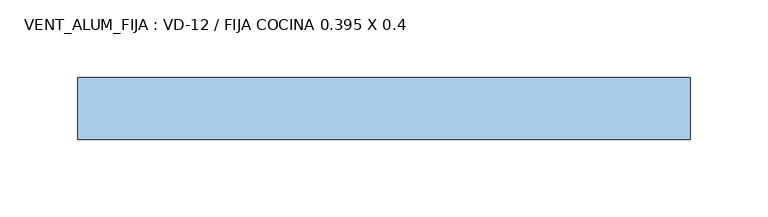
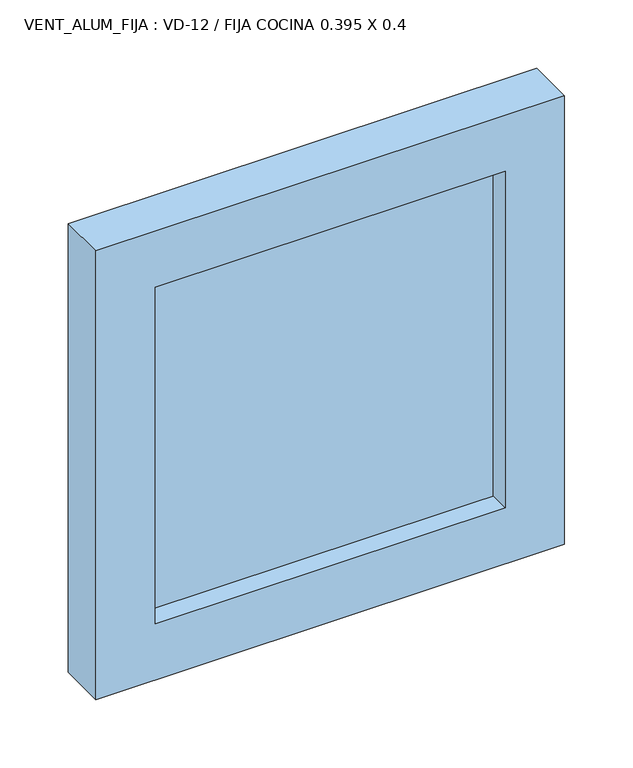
"""IFC4 building model written with IfcOpenShell, lengths in millimetres: window geometry, VENT_ALUM_FIJA : VD-12 / FIJA COCINA 0.395 X 0.4."""

from ifc_helpers import new_model, si_unit, frame, origin, place, context, project, spatial, polyline, outline, extrude, source, transform, mapped, element, save


def vent_alum_fija_vd_12_fija_cocina_0_395_x_0_4_5fc555e3(model_context):
    return source(origin(), model_context, "Body", "SweptSolid", [
        extrude(outline(polyline([(800.0, -197.5), (800.0, 197.5), (1200.0, 197.5), (1200.0, -197.5), (800.0, -197.5)]), holes=[polyline([(1150.0, -147.5), (1150.0, 147.5), (850.0, 147.5), (850.0, -147.5), (1150.0, -147.5)])]), frame((0.0, -20.0, 0.0), z_axis=(0.0, 1.0, 0.0), x_axis=(0.0, 0.0, 1.0)), (0.0, 0.0, 1.0), 40.0),
        extrude(outline(polyline([(147.5, -3.0), (-147.5, -3.0), (-147.5, 3.0), (147.5, 3.0), (147.5, -3.0)])), frame((0.0, 0.0, 850.0), z_axis=(0.0, 0.0, 1.0), x_axis=(1.0, 0.0, 0.0)), (0.0, 0.0, 1.0), 300.0),
    ])


if __name__ == "__main__":
    model = new_model("IFC4")
    model_context = context("Model", 3, world=origin())
    ifc_project = project(units=[si_unit("LENGTHUNIT", "METRE", prefix="MILLI")], contexts=[model_context])
    site = spatial("IfcSite", under=ifc_project)
    building = spatial("IfcBuilding", under=site)
    placement = place(None, origin())
    vent_alum_fija_vd_12_fija_cocina_0_395_x_0_4_shape = vent_alum_fija_vd_12_fija_cocina_0_395_x_0_4_5fc555e3(model_context)
    element("IfcWindow", 1, ObjectType="VENT_ALUM_FIJA : VD-12 / FIJA COCINA 0.395 X 0.4", at=placement, inside=building, context=model_context, shape_type="MappedRepresentation", body=[
        mapped(vent_alum_fija_vd_12_fija_cocina_0_395_x_0_4_shape, transform((0.0, 0.0, 0.0), x_axis=(1.0, 0.0, 0.0), y_axis=(0.0, 1.0, 0.0), z_axis=(0.0, 0.0, 1.0))),
    ])
    save(model, "model.ifc")
